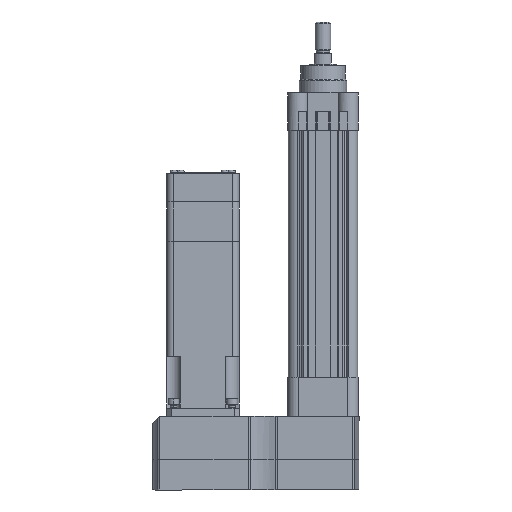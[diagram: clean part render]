
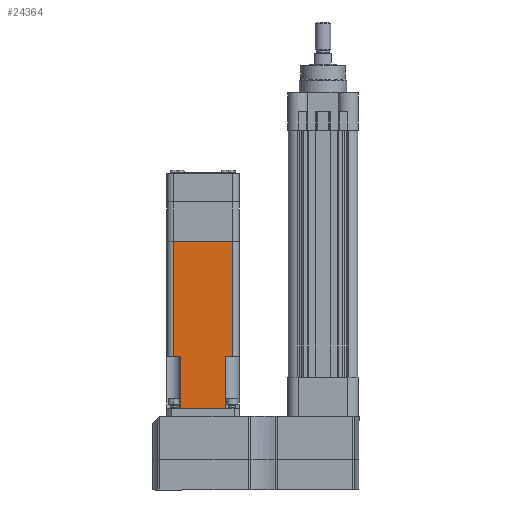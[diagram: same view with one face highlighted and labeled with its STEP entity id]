
A CAD part, front view. The second image highlights one B-rep face of the part: STEP entity #24364.
In plain terms, the highlighted planar face has unit normal (0, -1, 0).
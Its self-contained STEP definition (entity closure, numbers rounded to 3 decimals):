
#686 = CARTESIAN_POINT ( 'NONE',  ( -45.898, -27.559, 22.479 ) ) ;
#1419 = VERTEX_POINT ( 'NONE', #25578 ) ;
#1902 = LINE ( 'NONE', #16426, #19935 ) ;
#2128 = VECTOR ( 'NONE', #31831, 1000. ) ;
#2307 = EDGE_CURVE ( 'NONE', #30108, #12563, #10788, .T. ) ;
#2539 = CARTESIAN_POINT ( 'NONE',  ( -6.401, -27.559, 27.559 ) ) ;
#4144 = VECTOR ( 'NONE', #6169, 1000. ) ;
#4210 = EDGE_CURVE ( 'NONE', #15189, #39664, #12590, .T. ) ;
#5065 = EDGE_CURVE ( 'NONE', #28000, #24880, #1902, .T. ) ;
#5550 = EDGE_CURVE ( 'NONE', #1419, #30108, #5776, .T. ) ;
#5776 = LINE ( 'NONE', #41361, #15363 ) ;
#6169 = DIRECTION ( 'NONE',  ( 0., 0., 1. ) ) ;
#7441 = ORIENTED_EDGE ( 'NONE', *, *, #5550, .T. ) ;
#9642 = VECTOR ( 'NONE', #23194, 1000. ) ;
#10127 = LINE ( 'NONE', #44423, #28172 ) ;
#10178 = ORIENTED_EDGE ( 'NONE', *, *, #2307, .T. ) ;
#10652 = ORIENTED_EDGE ( 'NONE', *, *, #13108, .F. ) ;
#10788 = LINE ( 'NONE', #36320, #9642 ) ;
#10860 = ORIENTED_EDGE ( 'NONE', *, *, #33954, .T. ) ;
#11690 = LINE ( 'NONE', #42626, #2128 ) ;
#12029 = CARTESIAN_POINT ( 'NONE',  ( -45.898, -27.559, -17.084 ) ) ;
#12563 = VERTEX_POINT ( 'NONE', #39703 ) ;
#12590 = LINE ( 'NONE', #2539, #4144 ) ;
#13108 = EDGE_CURVE ( 'NONE', #28000, #12563, #11690, .T. ) ;
#13296 = CARTESIAN_POINT ( 'NONE',  ( -133.604, -27.559, -22.479 ) ) ;
#13672 = CARTESIAN_POINT ( 'NONE',  ( -6.401, -27.559, -17.084 ) ) ;
#14117 = ORIENTED_EDGE ( 'NONE', *, *, #27395, .F. ) ;
#14656 = VECTOR ( 'NONE', #28464, 1000. ) ;
#15189 = VERTEX_POINT ( 'NONE', #13672 ) ;
#15363 = VECTOR ( 'NONE', #30421, 1000. ) ;
#16085 = CARTESIAN_POINT ( 'NONE',  ( -133.604, -27.559, 27.559 ) ) ;
#16242 = DIRECTION ( 'NONE',  ( 0., 0., 1. ) ) ;
#16426 = CARTESIAN_POINT ( 'NONE',  ( -133.604, -27.559, -22.479 ) ) ;
#17770 = ORIENTED_EDGE ( 'NONE', *, *, #4210, .T. ) ;
#18547 = DIRECTION ( 'NONE',  ( 1., 0., 0. ) ) ;
#19935 = VECTOR ( 'NONE', #23649, 1000. ) ;
#20659 = FACE_OUTER_BOUND ( 'NONE', #33695, .T. ) ;
#21392 = CARTESIAN_POINT ( 'NONE',  ( -45.898, -27.559, -17.084 ) ) ;
#23194 = DIRECTION ( 'NONE',  ( -1., 0., 0. ) ) ;
#23649 = DIRECTION ( 'NONE',  ( 1., 0., 0. ) ) ;
#24291 = AXIS2_PLACEMENT_3D ( 'NONE', #16085, #37868, #16242 ) ;
#24364 = ADVANCED_FACE ( 'NONE', ( #20659 ), #26946, .F. ) ;
#24880 = VERTEX_POINT ( 'NONE', #38572 ) ;
#25578 = CARTESIAN_POINT ( 'NONE',  ( -45.898, -27.559, 17.084 ) ) ;
#26946 = PLANE ( 'NONE',  #24291 ) ;
#27236 = LINE ( 'NONE', #40184, #46495 ) ;
#27395 = EDGE_CURVE ( 'NONE', #1419, #39664, #27236, .T. ) ;
#28000 = VERTEX_POINT ( 'NONE', #13296 ) ;
#28172 = VECTOR ( 'NONE', #37733, 1000. ) ;
#28464 = DIRECTION ( 'NONE',  ( -1., 0., 0. ) ) ;
#29630 = ORIENTED_EDGE ( 'NONE', *, *, #33109, .F. ) ;
#30108 = VERTEX_POINT ( 'NONE', #686 ) ;
#30421 = DIRECTION ( 'NONE',  ( 0., 0., 1. ) ) ;
#31831 = DIRECTION ( 'NONE',  ( 0., 0., 1. ) ) ;
#33109 = EDGE_CURVE ( 'NONE', #15189, #43471, #33873, .T. ) ;
#33695 = EDGE_LOOP ( 'NONE', ( #10652, #37852, #10860, #29630, #17770, #14117, #7441, #10178 ) ) ;
#33873 = LINE ( 'NONE', #21392, #14656 ) ;
#33954 = EDGE_CURVE ( 'NONE', #24880, #43471, #10127, .T. ) ;
#36320 = CARTESIAN_POINT ( 'NONE',  ( -133.604, -27.559, 22.479 ) ) ;
#37733 = DIRECTION ( 'NONE',  ( 0., 0., 1. ) ) ;
#37852 = ORIENTED_EDGE ( 'NONE', *, *, #5065, .T. ) ;
#37868 = DIRECTION ( 'NONE',  ( 0., 1., 0. ) ) ;
#38572 = CARTESIAN_POINT ( 'NONE',  ( -45.898, -27.559, -22.479 ) ) ;
#39664 = VERTEX_POINT ( 'NONE', #40167 ) ;
#39703 = CARTESIAN_POINT ( 'NONE',  ( -133.604, -27.559, 22.479 ) ) ;
#40167 = CARTESIAN_POINT ( 'NONE',  ( -6.401, -27.559, 17.084 ) ) ;
#40184 = CARTESIAN_POINT ( 'NONE',  ( -45.898, -27.559, 17.084 ) ) ;
#41361 = CARTESIAN_POINT ( 'NONE',  ( -45.898, -27.559, 27.559 ) ) ;
#42626 = CARTESIAN_POINT ( 'NONE',  ( -133.604, -27.559, 27.559 ) ) ;
#43471 = VERTEX_POINT ( 'NONE', #12029 ) ;
#44423 = CARTESIAN_POINT ( 'NONE',  ( -45.898, -27.559, 27.559 ) ) ;
#46495 = VECTOR ( 'NONE', #18547, 1000. ) ;
